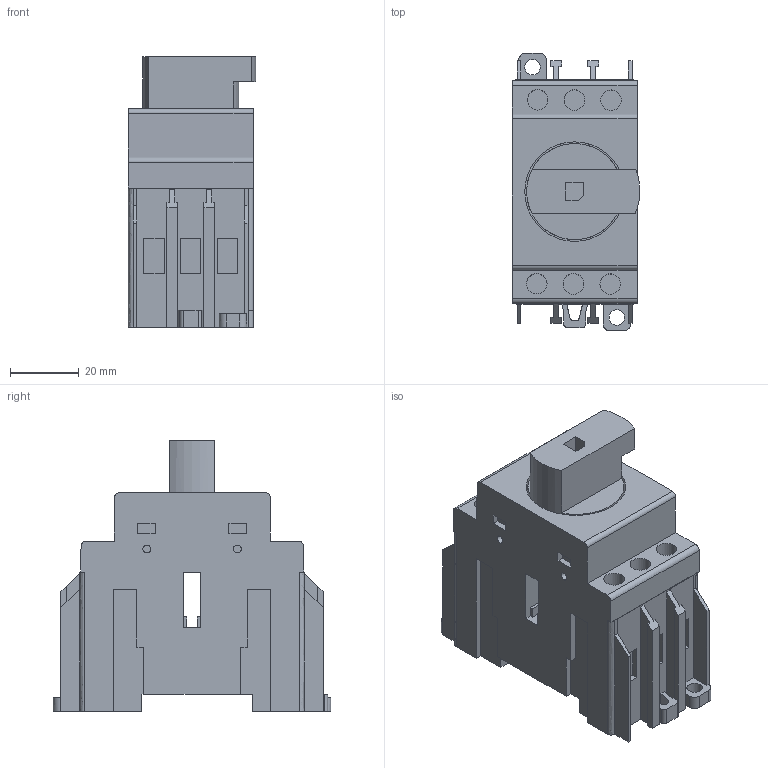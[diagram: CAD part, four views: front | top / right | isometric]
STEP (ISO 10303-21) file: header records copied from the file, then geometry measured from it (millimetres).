
FILE_DESCRIPTION (( 'STEP AP203' ), '1' );
FILE_NAME ('OptiSwitch DI-16-63-3 (m=0,13羱).STEP', '2023-02-21T22:42:39', ( '砐錪賧瘔蠈錪' ), ( '' ), 'SwSTEP 2.0', 'SolidWorks 2018', '' );
FILE_SCHEMA (( 'CONFIG_CONTROL_DESIGN' ));
Length unit declared in the file: millimetre
Products named in the file (1): OptiSwitch DI-16-63-3 (m=0,13羱)
Bounding box: 37.19 x 80.96 x 78.9 mm (x, y, z)
Volume: 127108.3 mm3; surface area: 32179.5 mm2
Topology: 1 solids, 1 shells, 297 faces, 797 edges, 528 vertices
Faces by surface type: plane 262, cylinder 19, bspline 16
Full cylindrical faces by diameter (mm): 4.5 x2, 6 x6, 28 x1, 29.048 x1
Entity records: 9225 total; most frequent: CARTESIAN_POINT 1885, ORIENTED_EDGE 1564, DIRECTION 1348, EDGE_CURVE 782, LINE 700, VECTOR 700, VERTEX_POINT 527, EDGE_LOOP 345
